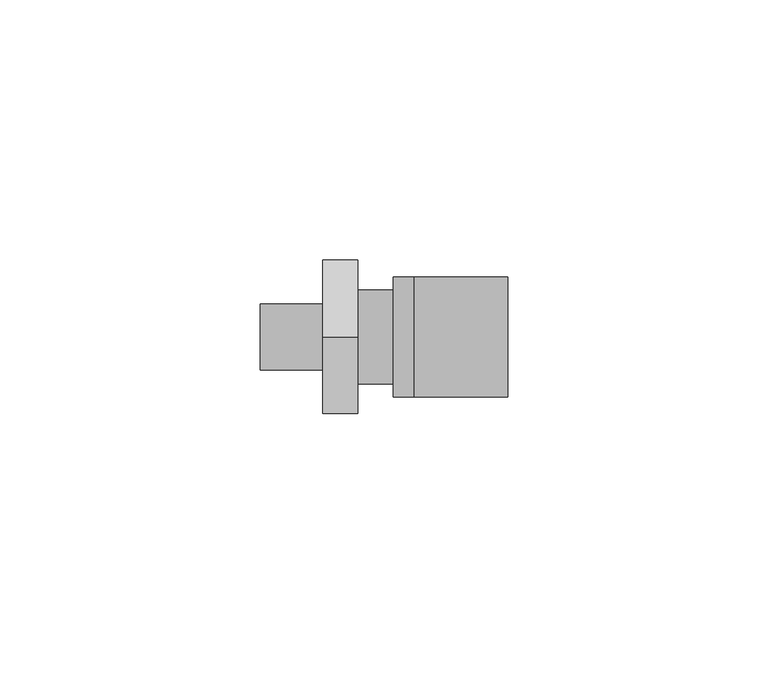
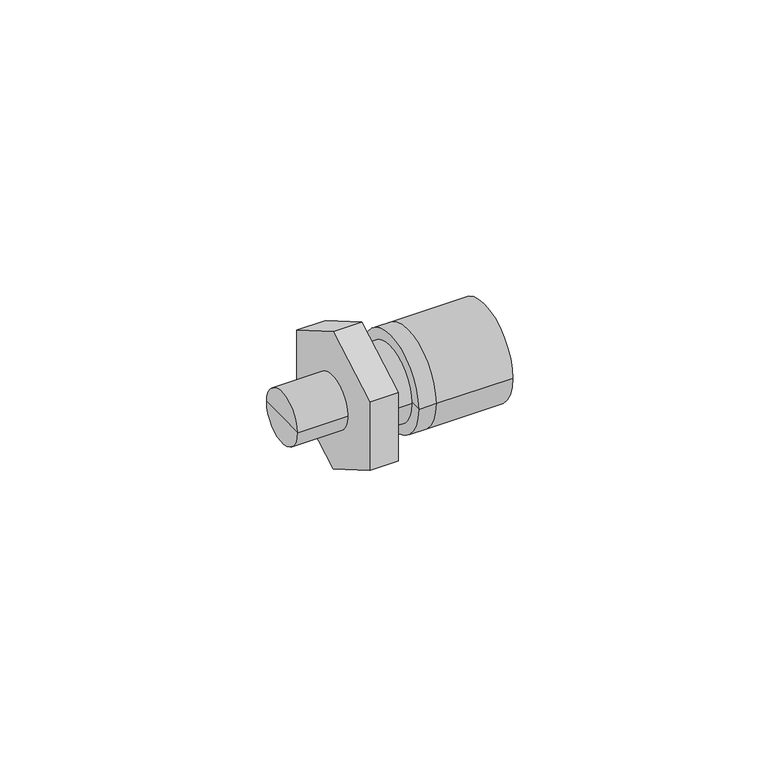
"""IFC4 building model written with IfcOpenShell, lengths in millimetres: pipe fitting geometry, KAN-therm Push 18x2 złączka z gw 1-2 : KAN-therm Push 18x2 złączka z gw 1-2."""

from ifc_helpers import new_model, si_unit, frame, origin, place, context, project, spatial, polyline, circle_curve, outline, extrude, source, transform, mapped, element, save
from ifc_brep_helpers import plane_surface, cylinder_surface, advanced_brep


def pipe_fitting_3afa9204(model_context):
    return source(origin(), model_context, "Body", "SolidModel", [
        advanced_brep(
        [(17.5, -11.5, 0.0), (17.5, 11.5, 0.0), (17.5, 0.0, 0.0), (13.5, -11.5, 0.0), (13.5, 11.5, 0.0), (13.5, 0.0, 0.0)],
        [
            (0, 1, circle_curve(frame((17.5, 0.0, 0.0), z_axis=(1.0, 0.0, 0.0), x_axis=(0.0, 1.0, 0.0)), 11.5)),
            (1, 2),
            (2, 0),
            (1, 0, circle_curve(frame((17.5, 0.0, 0.0), z_axis=(1.0, 0.0, 0.0), x_axis=(0.0, 1.0, 0.0)), 11.5)),
            (3, 4, circle_curve(frame((13.5, 0.0, 0.0), z_axis=(1.0, 0.0, 0.0), x_axis=(0.0, 1.0, 0.0)), 11.5)),
            (4, 1),
            (0, 3),
            (4, 3, circle_curve(frame((13.5, 0.0, 0.0), z_axis=(1.0, 0.0, 0.0), x_axis=(0.0, 1.0, 0.0)), 11.5)),
            (5, 4),
            (3, 5),
        ],
        [
            plane_surface(frame((17.5, 0.0, 0.0), z_axis=(1.0, 0.0, 0.0), x_axis=(0.0, 1.0, 0.0))),
            cylinder_surface(frame((2012.5, 0.0, 0.0), z_axis=(-1.0, 0.0, 0.0), x_axis=(0.0, 1.0, 0.0)), 11.5),
            plane_surface(frame((13.5, 0.0, 0.0), z_axis=(-1.0, 0.0, 0.0), x_axis=(0.0, 1.0, 0.0))),
        ],
        [
            (0, [[1, 2, 3]]),
            (0, [[4, -3, -2]]),
            (1, [[5, 6, -1, 7]]),
            (1, [[8, -7, -4, -6]]),
            (2, [[9, -5, 10]]),
            (2, [[-10, -8, -9]]),
        ],
    ),
        advanced_brep(
        [(35.5, -11.5, 0.0), (35.5, 11.5, 0.0), (35.5, 0.0, 0.0), (17.5, -11.5, 0.0), (17.5, 11.5, 0.0), (17.5, 0.0, 0.0)],
        [
            (0, 1, circle_curve(frame((35.5, 0.0, 0.0), z_axis=(1.0, 0.0, 0.0), x_axis=(0.0, 1.0, 0.0)), 11.5)),
            (1, 2),
            (2, 0),
            (1, 0, circle_curve(frame((35.5, 0.0, 0.0), z_axis=(1.0, 0.0, 0.0), x_axis=(0.0, 1.0, 0.0)), 11.5)),
            (3, 4, circle_curve(frame((17.5, 0.0, 0.0), z_axis=(1.0, 0.0, 0.0), x_axis=(0.0, 1.0, 0.0)), 11.5)),
            (4, 1),
            (0, 3),
            (4, 3, circle_curve(frame((17.5, 0.0, 0.0), z_axis=(1.0, 0.0, 0.0), x_axis=(0.0, 1.0, 0.0)), 11.5)),
            (5, 4),
            (3, 5),
        ],
        [
            plane_surface(frame((35.5, 0.0, 0.0), z_axis=(1.0, 0.0, 0.0), x_axis=(0.0, 1.0, 0.0))),
            cylinder_surface(frame((2012.5, 0.0, 0.0), z_axis=(-1.0, 0.0, 0.0), x_axis=(0.0, 1.0, 0.0)), 11.5),
            plane_surface(frame((17.5, 0.0, 0.0), z_axis=(-1.0, 0.0, 0.0), x_axis=(0.0, 1.0, 0.0))),
        ],
        [
            (0, [[1, 2, 3]]),
            (0, [[4, -3, -2]]),
            (1, [[5, 6, -1, 7]]),
            (1, [[8, -7, -4, -6]]),
            (2, [[9, -5, 10]]),
            (2, [[-10, -8, -9]]),
        ],
    ),
        extrude(outline(polyline([(0.0, -17.0318329), (-14.75, -8.5159165), (-14.75, 8.5159165), (0.0, 17.0318329), (14.75, 8.5159165), (14.75, -8.5159165), (0.0, -17.0318329)])), frame((0.0, 0.0, 0.0), z_axis=(1.0, 0.0, 0.0), x_axis=(0.0, 1.0, 0.0)), (0.0, 0.0, 1.0), 6.75),
        advanced_brep(
        [(17.5, -9.0, 0.0), (17.5, 9.0, 0.0), (17.5, 0.0, 0.0), (6.75, -9.0, 0.0), (6.75, 9.0, 0.0), (6.75, 0.0, 0.0)],
        [
            (0, 1, circle_curve(frame((17.5, 0.0, 0.0), z_axis=(1.0, 0.0, 0.0), x_axis=(0.0, 1.0, 0.0)), 9.0)),
            (1, 2),
            (2, 0),
            (1, 0, circle_curve(frame((17.5, 0.0, 0.0), z_axis=(1.0, 0.0, 0.0), x_axis=(0.0, 1.0, 0.0)), 9.0)),
            (3, 4, circle_curve(frame((6.75, 0.0, 0.0), z_axis=(1.0, 0.0, 0.0), x_axis=(0.0, 1.0, 0.0)), 9.0)),
            (4, 1),
            (0, 3),
            (4, 3, circle_curve(frame((6.75, 0.0, 0.0), z_axis=(1.0, 0.0, 0.0), x_axis=(0.0, 1.0, 0.0)), 9.0)),
            (5, 4),
            (3, 5),
        ],
        [
            plane_surface(frame((17.5, 0.0, 0.0), z_axis=(1.0, 0.0, 0.0), x_axis=(0.0, 1.0, 0.0))),
            cylinder_surface(frame((2001.5, 0.0, 0.0), z_axis=(-1.0, 0.0, 0.0), x_axis=(0.0, 1.0, 0.0)), 9.0),
            plane_surface(frame((6.75, 0.0, 0.0), z_axis=(-1.0, 0.0, 0.0), x_axis=(0.0, 1.0, 0.0))),
        ],
        [
            (0, [[1, 2, 3]]),
            (0, [[4, -3, -2]]),
            (1, [[5, 6, -1, 7]]),
            (1, [[8, -7, -4, -6]]),
            (2, [[9, -5, 10]]),
            (2, [[-10, -8, -9]]),
        ],
    ),
        advanced_brep(
        [(0.0, -6.35, 0.0), (0.0, 6.35, 0.0), (0.0, 0.0, 0.0), (-12.0, -6.35, 0.0), (-12.0, 6.35, 0.0), (-12.0, 0.0, 0.0)],
        [
            (0, 1, circle_curve(frame((0.0, 0.0, 0.0), z_axis=(1.0, 0.0, 0.0), x_axis=(0.0, 1.0, 0.0)), 6.35)),
            (1, 2),
            (2, 0),
            (1, 0, circle_curve(frame((0.0, 0.0, 0.0), z_axis=(1.0, 0.0, 0.0), x_axis=(0.0, 1.0, 0.0)), 6.35)),
            (3, 4, circle_curve(frame((-12.0, 0.0, 0.0), z_axis=(1.0, 0.0, 0.0), x_axis=(0.0, 1.0, 0.0)), 6.35)),
            (4, 1),
            (0, 3),
            (4, 3, circle_curve(frame((-12.0, 0.0, 0.0), z_axis=(1.0, 0.0, 0.0), x_axis=(0.0, 1.0, 0.0)), 6.35)),
            (5, 4),
            (3, 5),
        ],
        [
            plane_surface(frame((0.0, 0.0, 0.0), z_axis=(1.0, 0.0, 0.0), x_axis=(0.0, 1.0, 0.0))),
            cylinder_surface(frame((2001.5, 0.0, 0.0), z_axis=(-1.0, 0.0, 0.0), x_axis=(0.0, 1.0, 0.0)), 6.35),
            plane_surface(frame((-12.0, 0.0, 0.0), z_axis=(-1.0, 0.0, 0.0), x_axis=(0.0, 1.0, 0.0))),
        ],
        [
            (0, [[1, 2, 3]]),
            (0, [[4, -3, -2]]),
            (1, [[5, 6, -1, 7]]),
            (1, [[8, -7, -4, -6]]),
            (2, [[9, -5, 10]]),
            (2, [[-10, -8, -9]]),
        ],
    ),
    ])


if __name__ == "__main__":
    model = new_model("IFC4")
    model_context = context("Model", 3, world=origin())
    ifc_project = project(units=[si_unit("LENGTHUNIT", "METRE", prefix="MILLI")], contexts=[model_context])
    site = spatial("IfcSite", under=ifc_project)
    building = spatial("IfcBuilding", under=site)
    placement = place(None, origin())
    pipe_fitting_shape = pipe_fitting_3afa9204(model_context)
    element("IfcPipeFitting", 1, ObjectType="KAN-therm Push 18x2 złączka z gw 1-2 : KAN-therm Push 18x2 złączka z gw 1-2", at=placement, inside=building, context=model_context, shape_type="MappedRepresentation", body=[
        mapped(pipe_fitting_shape, transform((0.0, 0.0, 0.0), x_axis=(1.0, 0.0, 0.0), y_axis=(0.0, 1.0, 0.0), z_axis=(0.0, 0.0, 1.0))),
    ])
    save(model, "model.ifc")
